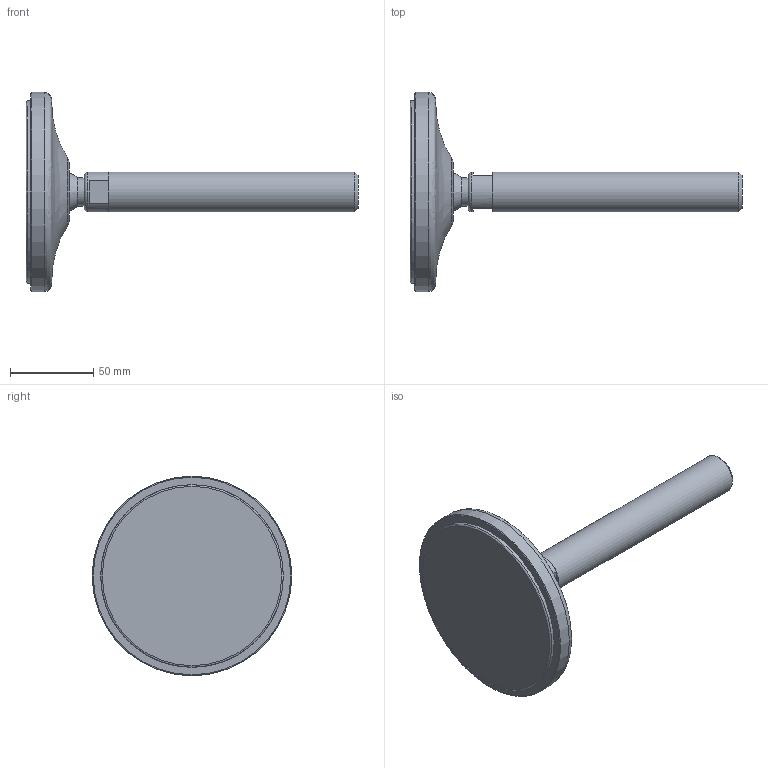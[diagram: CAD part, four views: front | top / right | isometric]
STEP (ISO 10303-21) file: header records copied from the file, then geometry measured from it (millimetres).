
FILE_DESCRIPTION(('STEP AP203'),'2;1');
FILE_NAME('10637.stp','2015-04-07T11:42:16',(''),(''),'2008.1.107','THINKDESIGN','');
FILE_SCHEMA(('CONFIG_CONTROL_DESIGN'));
Length unit declared in the file: millimetre
Bounding box: 200 x 120 x 120 mm (x, y, z)
Volume: 276439.7 mm3; surface area: 62080.3 mm2
Topology: 5 solids, 5 shells, 27 faces, 61 edges, 45 vertices
Faces by surface type: plane 14, bspline 8, cylinder 5
Full cylindrical faces by diameter (mm): 17 x1, 24 x2, 110 x1, 120 x1
Entity records: 1738 total; most frequent: CARTESIAN_POINT 921, DIRECTION 145, ORIENTED_EDGE 120, AXIS2_PLACEMENT_3D 65, EDGE_CURVE 60, CIRCLE 46, VERTEX_POINT 43, EDGE_LOOP 27
